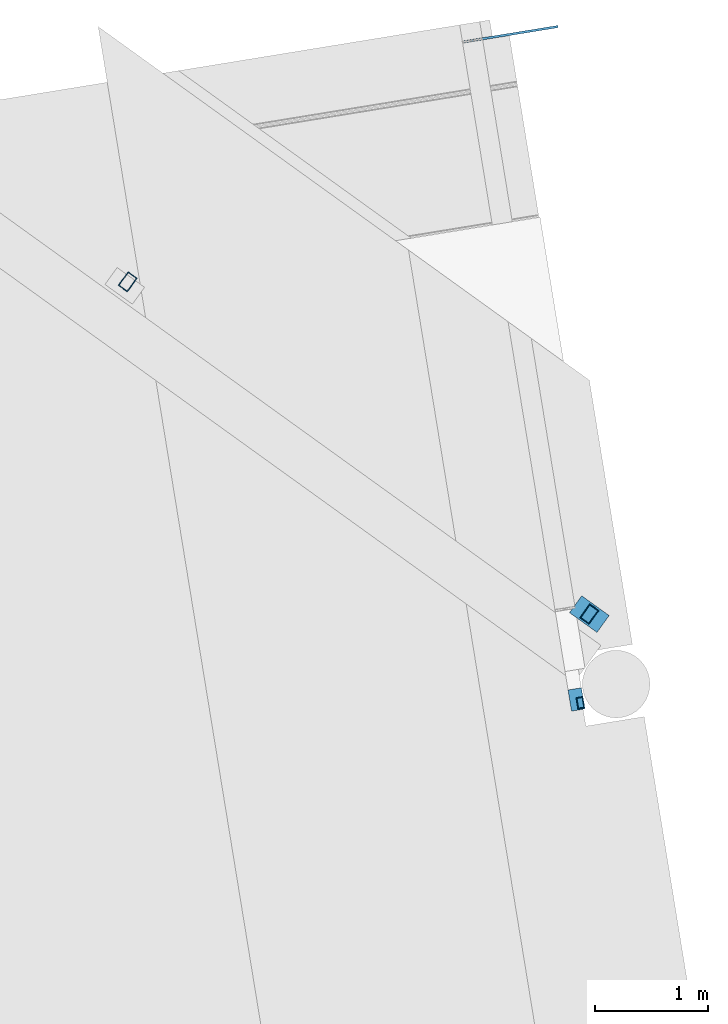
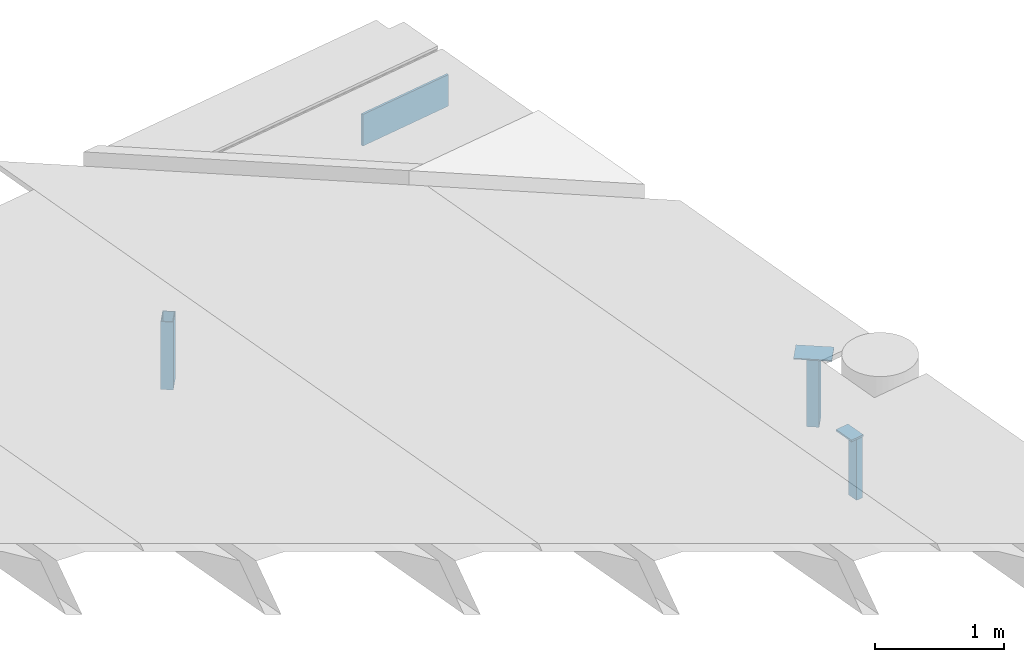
# One storey, part 2 of 5: 6 columns.
"""IFC2X3 building model written with IfcOpenShell, lengths in millimetres."""

from ifc_helpers import new_model, entity, si_unit, converted_unit, derived_unit, direction, frame, frame_2d, origin, origin_with_axes, origin_2d_with_axis, place, context, subcontext, project, spatial, polyline, rectangle, outline, extrude, faceted_brep, type_object, element, save


model = new_model("IFC2X3")

# Units and contexts
model_context = context("Model", 3, precision=0.01, world=origin(), true_north=direction((6.12323399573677e-17, 1.0)))
plan_context = context("Plan", 3, precision=1e-05, world=origin_with_axes())
body_context = subcontext(model_context, "Body", "Model", "MODEL_VIEW")
ifc_project = project(units=[converted_unit("PLANEANGLEUNIT", "DEGREE", entity("IfcPositiveLengthMeasure", 0.0174532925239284), si_unit("PLANEANGLEUNIT", "RADIAN"), dimensions=[0, 0, 0, 0, 0, 0, 0]), si_unit("AREAUNIT", "SQUARE_METRE"), si_unit("LENGTHUNIT", "METRE", prefix="MILLI"), si_unit("MASSUNIT", "GRAM", prefix="KILO"), si_unit("POWERUNIT", "WATT"), si_unit("PRESSUREUNIT", "PASCAL", prefix="KILO"), si_unit("FORCEUNIT", "NEWTON", prefix="KILO"), si_unit("ELECTRICVOLTAGEUNIT", "VOLT"), si_unit("ELECTRICCURRENTUNIT", "AMPERE"), si_unit("THERMODYNAMICTEMPERATUREUNIT", "DEGREE_CELSIUS"), si_unit("TIMEUNIT", "SECOND"), si_unit("VOLUMEUNIT", "CUBIC_METRE"), derived_unit("LINEARVELOCITYUNIT", [(si_unit("LENGTHUNIT", "METRE"), 1), (si_unit("TIMEUNIT", "SECOND"), -1)]), derived_unit("VOLUMETRICFLOWRATEUNIT", [(si_unit("VOLUMEUNIT", "CUBIC_METRE"), 1), (si_unit("TIMEUNIT", "SECOND"), -1)]), derived_unit("THERMALTRANSMITTANCEUNIT", [(si_unit("POWERUNIT", "WATT"), 1), (si_unit("THERMODYNAMICTEMPERATUREUNIT", "KELVIN"), -1), (si_unit("AREAUNIT", "SQUARE_METRE"), -1)]), derived_unit("SOUNDPRESSUREUNIT", [(si_unit("PRESSUREUNIT", "PASCAL"), 1)])], contexts=[model_context, plan_context])

# Site, building, storey
site_placement = place(None, frame((5.09380697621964e-08, 5.80416781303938e-08, 0.0), z_axis=(0.0, 0.0, 1.0), x_axis=(-0.160806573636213, 0.986985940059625, 0.0)))
site = spatial("IfcSite", under=ifc_project, at=site_placement, Name="Default", CompositionType="ELEMENT")
building_placement = place(site_placement, frame((0.0, 0.0, 0.0), z_axis=(0.0, 0.0, 1.0), x_axis=(1.0, -2.77555756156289e-17, 0.0)))
building = spatial("IfcBuilding", under=site, at=building_placement, CompositionType="ELEMENT")
storey_placement = place(building_placement, frame((0.0, 0.0, 51360.0000000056), z_axis=(0.0, 0.0, 1.0), x_axis=(1.0, -2.77555756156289e-17, 0.0)))
storey = spatial("IfcBuildingStorey", under=building, at=storey_placement, Name="H01-Nivå D+0,36", CompositionType="ELEMENT", Elevation=51360.0000000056)

# Columns
column_type_1 = type_object("IfcColumnType", Name="20*860", PredefinedType="NOTDEFINED")
column_1_placement = place(storey_placement, frame((0.0, 0.0, 0.0), z_axis=(0.0, 0.0, 1.0), x_axis=(1.0, -2.77555756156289e-17, 0.0)))
element("IfcColumn", 1, at=column_1_placement, inside=storey, type_object=column_type_1, Name="STÅLSØYLE", ObjectType="20*860", context=body_context, shape_type="SweptSolid", body=[
    extrude(rectangle(XDim=20.0000000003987, YDim=859.999999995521, at=origin_2d_with_axis()), frame((1016483.58299704, -396380.223044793, 3074.99999999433), z_axis=(1.65245523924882e-09, 0.0, 1.0), x_axis=(-1.0, -4.41954633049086e-06, 1.65245523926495e-09)), (0.0, 0.0, 1.0), 300.000000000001),
])
column_type_2 = type_object("IfcColumnType", Name="RHS150*100*6.3", PredefinedType="NOTDEFINED")
column_2_placement = place(storey_placement, frame((0.0, 0.0, 0.0), z_axis=(0.0, 0.0, 1.0), x_axis=(1.0, -2.77555756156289e-17, 0.0)))
element("IfcColumn", 2, at=column_2_placement, inside=storey, type_object=column_type_2, Name="STÅLSØYLE", ObjectType="RHS150*100*6.3", context=body_context, shape_type="Brep", body=[
    faceted_brep([(1011369.65675638, -396262.982599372, 3139.99999999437), (1011272.49985562, -396165.826557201, 3139.99999999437), (1011272.49985562, -396165.826557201, 3784.99961299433), (1011369.65675638, -396262.982599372, 3784.99961299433), (1011307.85589705, -396324.784004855, 3139.99999999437), (1011307.85589705, -396324.784004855, 3784.99961299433), (1011210.69899628, -396227.627962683, 3139.99999999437), (1011210.69899628, -396227.627962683, 3784.99961299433), (1011378.56630209, -396262.982560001, 3139.99999999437), (1011307.85593641, -396333.693550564, 3139.99999999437), (1011307.85593641, -396333.693550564, 3784.99961299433), (1011378.56630209, -396262.982560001, 3784.99961299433), (1011272.49981625, -396156.91701149, 3139.99999999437), (1011272.49981625, -396156.91701149, 3784.99961299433), (1011201.78945057, -396227.62800205, 3139.99999999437), (1011201.78945057, -396227.62800205, 3784.99961299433)], [[[0, 1, 2, 3]], [[4, 0, 3, 5]], [[6, 4, 5, 7]], [[1, 6, 7, 2]], [[8, 9, 10, 11]], [[12, 8, 11, 13]], [[14, 12, 13, 15]], [[9, 14, 15, 10]], [[11, 10, 15, 13], [2, 7, 5, 3]], [[12, 14, 9, 8], [4, 6, 1, 0]]], orient=[[False], [False], [False], [False], [False], [False], [False], [False], [False, False], [False, False]]),
])
column_3_placement = place(storey_placement, frame((0.0, 0.0, 0.0), z_axis=(0.0, 0.0, 1.0), x_axis=(1.0, -2.77555756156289e-17, 0.0)))
element("IfcColumn", 3, at=column_3_placement, inside=storey, type_object=column_type_2, Name="STÅLSØYLE", ObjectType="RHS150*100*6.3", context=body_context, shape_type="Brep", body=[
    faceted_brep([(1014940.53022138, -392692.077574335, 3139.99999999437), (1014843.37332062, -392594.921532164, 3139.99999999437), (1014843.37332062, -392594.921532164, 3784.99961299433), (1014940.53022138, -392692.077574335, 3784.99961299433), (1014878.72936205, -392753.878979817, 3139.99999999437), (1014878.72936205, -392753.878979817, 3784.99961299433), (1014781.57246129, -392656.722937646, 3139.99999999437), (1014781.57246129, -392656.722937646, 3784.99961299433), (1014949.43976709, -392692.077534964, 3139.99999999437), (1014878.72940142, -392762.788525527, 3139.99999999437), (1014878.72940142, -392762.788525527, 3784.99961299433), (1014949.43976709, -392692.077534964, 3784.99961299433), (1014843.37328125, -392586.011986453, 3139.99999999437), (1014843.37328125, -392586.011986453, 3784.99961299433), (1014772.66291558, -392656.722977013, 3139.99999999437), (1014772.66291558, -392656.722977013, 3784.99961299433)], [[[0, 1, 2, 3]], [[4, 0, 3, 5]], [[6, 4, 5, 7]], [[1, 6, 7, 2]], [[8, 9, 10, 11]], [[12, 8, 11, 13]], [[14, 12, 13, 15]], [[9, 14, 15, 10]], [[11, 10, 15, 13], [2, 7, 5, 3]], [[12, 14, 9, 8], [4, 6, 1, 0]]], orient=[[False], [False], [False], [False], [False], [False], [False], [False], [False, False], [False, False]]),
])
column_type_3 = type_object("IfcColumnType", Name="185*300", PredefinedType="NOTDEFINED")
column_4_placement = place(storey_placement, frame((0.0, 0.0, 0.0), z_axis=(0.0, 0.0, 1.0), x_axis=(1.0, -2.77555756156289e-17, 0.0)))
element("IfcColumn", 4, at=column_4_placement, inside=storey, type_object=column_type_3, Name="STÅLSØYLE", ObjectType="185*300", context=body_context, shape_type="SweptSolid", body=[
    extrude(rectangle(XDim=184.999999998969, YDim=300.000000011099, at=frame_2d((7.105427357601e-15, 9.80122649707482e-11), x_axis=(1.0, 0.0))), frame((1011290.17787633, -396245.305281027, 3784.99999999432), z_axis=(0.0, 0.0, 1.0), x_axis=(-0.707109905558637, 0.707103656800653, 0.0)), (0.0, 0.0, 1.0), 9.99999999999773),
])
column_type_4 = type_object("IfcColumnType", Name="RHS100*60*5", PredefinedType="NOTDEFINED")
column_5_placement = place(storey_placement, frame((0.0, 0.0, 0.0), z_axis=(0.0, 0.0, 1.0), x_axis=(1.0, -2.77555756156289e-17, 0.0)))
element("IfcColumn", 5, at=column_5_placement, inside=storey, type_object=column_type_4, Name="STÅLSØYLE", ObjectType="RHS100*60*5", context=body_context, shape_type="SweptSolid", body=[
    extrude(outline(polyline([(-50.0, -30.0), (50.0, -30.0), (50.0000000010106, 30.0), (-50.0, 30.0), (-50.0, -30.0)]), holes=[polyline([(-45.0000000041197, -25.0), (-45.0, 25.0), (45.0000000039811, 25.0), (45.0, -25.0), (-45.0000000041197, -25.0)])]), frame((1010525.58149414, -396040.24937356, 2935.99999999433), z_axis=(1.65245499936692e-09, 0.0, 1.0), x_axis=(-1.0, -4.41955603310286e-06, 1.65245523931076e-09)), (0.0, 0.0, 1.0), 587.999999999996),
])
column_type_5 = type_object("IfcColumnType", Name="120*190", PredefinedType="NOTDEFINED")
column_6_placement = place(storey_placement, frame((0.0, 0.0, 0.0), z_axis=(0.0, 0.0, 1.0), x_axis=(1.0, -2.77555756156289e-17, 0.0)))
element("IfcColumn", 6, at=column_6_placement, inside=storey, type_object=column_type_5, Name="STÅLSØYLE", ObjectType="120*190", context=body_context, shape_type="SweptSolid", body=[
    extrude(rectangle(XDim=119.999999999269, YDim=190.000000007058, at=frame_2d((3.46496165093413e-11, -6.93063384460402e-11), x_axis=(1.0, 0.0))), frame((1010560.58136157, -396010.249218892, 3523.99999999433), z_axis=(0.0, 3.08669687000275e-07, 1.0), x_axis=(4.26739743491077e-06, -1.0, 3.08669687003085e-07)), (0.0, 0.0, 1.0), 15.9999999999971),
])

save(model, "model.ifc")
